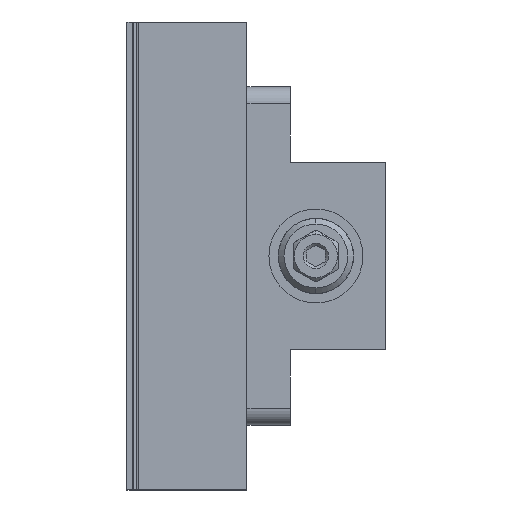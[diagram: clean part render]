
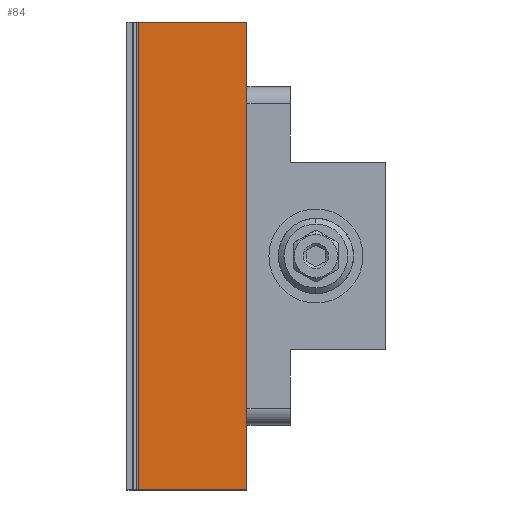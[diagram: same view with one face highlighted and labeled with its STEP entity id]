
A CAD part, left-side view. The second image highlights one B-rep face of the part: STEP entity #84.
In plain terms, the highlighted planar face has unit normal (-1, 0, 0).
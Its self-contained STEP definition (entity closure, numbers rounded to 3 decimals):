
#60 = LINE ( 'NONE', #5106, #1399 ) ;
#84 = ADVANCED_FACE ( 'NONE', ( #5111 ), #1289, .F. ) ;
#304 = VERTEX_POINT ( 'NONE', #3353 ) ;
#311 = VECTOR ( 'NONE', #3278, 1000. ) ;
#332 = LINE ( 'NONE', #2512, #1990 ) ;
#408 = ORIENTED_EDGE ( 'NONE', *, *, #2132, .T. ) ;
#549 = ORIENTED_EDGE ( 'NONE', *, *, #4894, .T. ) ;
#691 = DIRECTION ( 'NONE',  ( 0., 1., 0. ) ) ;
#893 = AXIS2_PLACEMENT_3D ( 'NONE', #1488, #1040, #1930 ) ;
#1040 = DIRECTION ( 'NONE',  ( 1., 0., 0. ) ) ;
#1289 = PLANE ( 'NONE',  #893 ) ;
#1399 = VECTOR ( 'NONE', #3378, 1000. ) ;
#1488 = CARTESIAN_POINT ( 'NONE',  ( -11.5, 6.85, 25. ) ) ;
#1580 = EDGE_LOOP ( 'NONE', ( #549, #3320, #408, #4794 ) ) ;
#1581 = CARTESIAN_POINT ( 'NONE',  ( -11.5, 47.35, -62.3 ) ) ;
#1621 = VERTEX_POINT ( 'NONE', #3898 ) ;
#1930 = DIRECTION ( 'NONE',  ( 0., 0., -1. ) ) ;
#1990 = VECTOR ( 'NONE', #2979, 1000. ) ;
#2106 = VECTOR ( 'NONE', #691, 1000. ) ;
#2132 = EDGE_CURVE ( 'NONE', #4706, #1621, #332, .T. ) ;
#2372 = VERTEX_POINT ( 'NONE', #2544 ) ;
#2512 = CARTESIAN_POINT ( 'NONE',  ( -11.5, 50.35, -62.3 ) ) ;
#2544 = CARTESIAN_POINT ( 'NONE',  ( -11.5, 18.35, 62.3 ) ) ;
#2833 = LINE ( 'NONE', #1581, #311 ) ;
#2979 = DIRECTION ( 'NONE',  ( 0., -1., 0. ) ) ;
#3017 = EDGE_CURVE ( 'NONE', #4706, #304, #2833, .T. ) ;
#3278 = DIRECTION ( 'NONE',  ( 0., 0., 1. ) ) ;
#3320 = ORIENTED_EDGE ( 'NONE', *, *, #3017, .F. ) ;
#3353 = CARTESIAN_POINT ( 'NONE',  ( -11.5, 47.35, 62.3 ) ) ;
#3378 = DIRECTION ( 'NONE',  ( 0., 0., 1. ) ) ;
#3455 = CARTESIAN_POINT ( 'NONE',  ( -11.5, 47.35, -62.3 ) ) ;
#3656 = EDGE_CURVE ( 'NONE', #1621, #2372, #60, .T. ) ;
#3749 = LINE ( 'NONE', #5449, #2106 ) ;
#3898 = CARTESIAN_POINT ( 'NONE',  ( -11.5, 18.35, -62.3 ) ) ;
#4706 = VERTEX_POINT ( 'NONE', #3455 ) ;
#4794 = ORIENTED_EDGE ( 'NONE', *, *, #3656, .T. ) ;
#4894 = EDGE_CURVE ( 'NONE', #2372, #304, #3749, .T. ) ;
#5106 = CARTESIAN_POINT ( 'NONE',  ( -11.5, 18.35, 45. ) ) ;
#5111 = FACE_OUTER_BOUND ( 'NONE', #1580, .T. ) ;
#5449 = CARTESIAN_POINT ( 'NONE',  ( -11.5, 18.35, 62.3 ) ) ;
